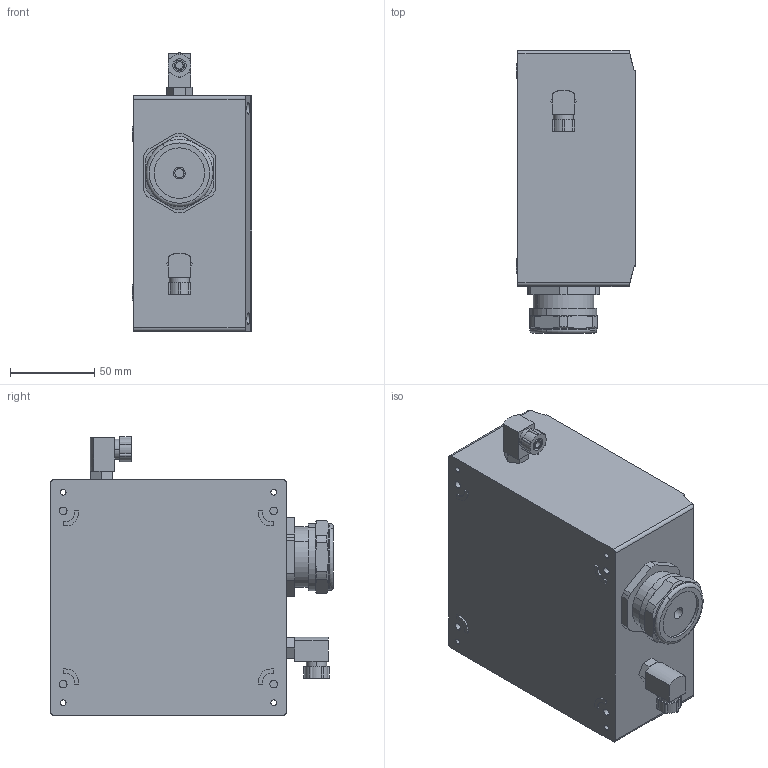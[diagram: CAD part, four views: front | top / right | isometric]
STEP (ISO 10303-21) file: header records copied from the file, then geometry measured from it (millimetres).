
FILE_DESCRIPTION (( 'STEP AP203' ), '1' );
FILE_NAME ('2105042 SGH ILD, Größe S-1.STEP', '2013-02-05T12:54:16', ( 'Smy' ), ( 'Hewlett-Packard Company' ), 'SwSTEP 2.0', 'SolidWorks 2012', '' );
FILE_SCHEMA (( 'CONFIG_CONTROL_DESIGN' ));
Length unit declared in the file: millimetre
Products named in the file (1): 2105042  SGH ILD, Größe S-1
Bounding box: 71 x 168 x 165.5 mm (x, y, z)
Volume: 374278.7 mm3; surface area: 197810.7 mm2
Topology: 1 solids, 9 shells, 659 faces, 1668 edges, 1092 vertices
Faces by surface type: cylinder 313, plane 290, cone 44, torus 12
Entity records: 20635 total; most frequent: CARTESIAN_POINT 4139, DIRECTION 3626, ORIENTED_EDGE 3336, EDGE_CURVE 1668, AXIS2_PLACEMENT_3D 1415, VERTEX_POINT 1092, LINE 796, VECTOR 796
